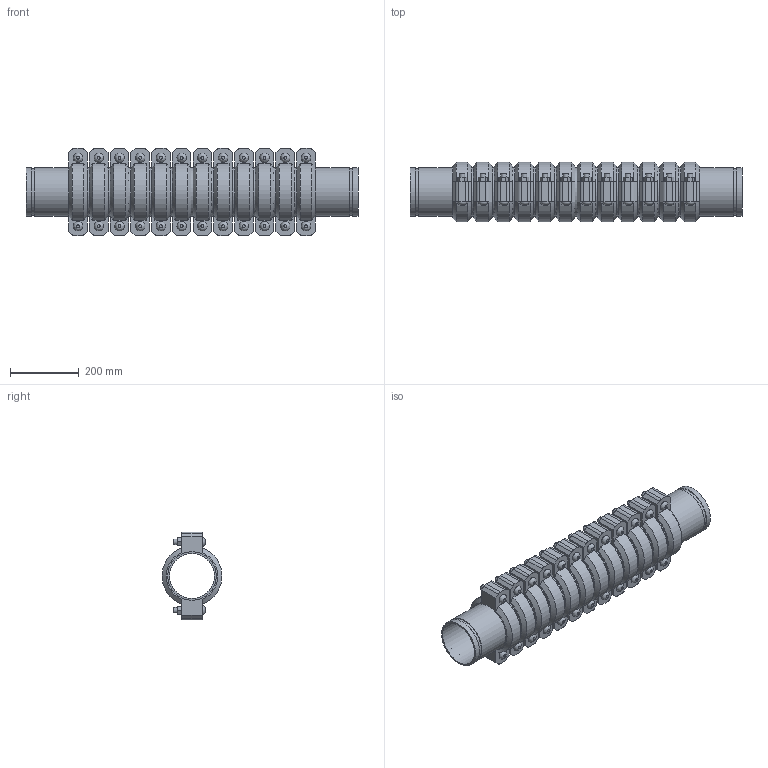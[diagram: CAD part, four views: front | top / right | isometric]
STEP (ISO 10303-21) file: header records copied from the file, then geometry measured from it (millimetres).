
FILE_DESCRIPTION(/* description */ ('VIC EXPANSION JOINT 12 COUPLINGS COMPRESSED STYLE 155 (OGS)','CAx-IF Rec.Pracs.---Representation and Presentation of Product Manufacturing Information (PMI)---4.0---2014-10-13'),/* implementation_level */ '2;1');
FILE_NAME(/* name */ 'C:\Users\kkamble\AppData\Roaming\Autodesk\ApplicationPlugins\Victaulic.Temp\A100\Victaulic_IPS_Expansion Joint_Compressed_12 Couplings_Style 155 (OGS)_5 (125).stp',/* time_stamp */ '2021-06-27T00:21:33+02:00',/* author */ ('kkamble'),/* organization */ ('Victaulic'),/* preprocessor_version */ 'ST-DEVELOPER v17.2',/* originating_system */ 'Autodesk Inventor 2019',/* authorisation */ '');
FILE_SCHEMA (('AP242_MANAGED_MODEL_BASED_3D_ENGINEERING_MIM_LF { 1 0 10303 442 1 1 4 }'));
Length unit declared in the file: inch
Products named in the file (4): 155-05.0; Nipple-05.0; Nipple-05.0_1; 075_12_Coup-05.0
Assembly tree (25 placements, depth 2):
  155-05.0
    Nipple-05.0  x2
    Nipple-05.0_1  x11
    075_12_Coup-05.0  x12
Bounding box: 969.01 x 174.16 x 255.78 mm (x, y, z)
Volume: 9929976.4 mm3; surface area: 2144553.6 mm2
Topology: 25 solids, 49 shells, 840 faces, 1986 edges, 1392 vertices
Faces by surface type: plane 510, cylinder 258, cone 48, bspline 24
Full cylindrical faces by diameter (mm): 15.875 x48, 17.424 x24, 130.988 x13, 134.95 x12, 137.033 x26, 141.3 x63
Entity records: 2922 total; most frequent: CARTESIAN_POINT 509, DIRECTION 493, ORIENTED_EDGE 386, AXIS2_PLACEMENT_3D 200, EDGE_CURVE 193, VERTEX_POINT 138, EDGE_LOOP 107, LINE 93
